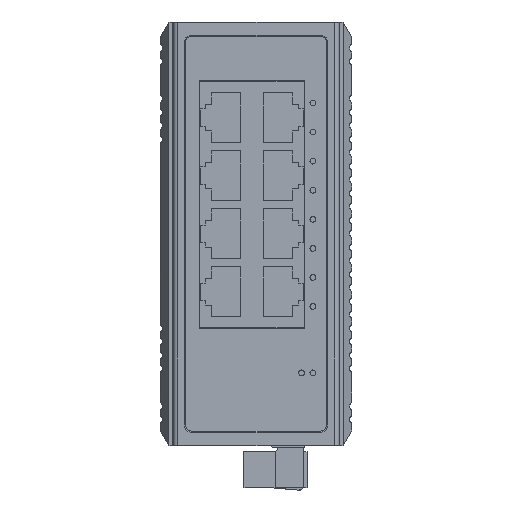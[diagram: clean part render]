
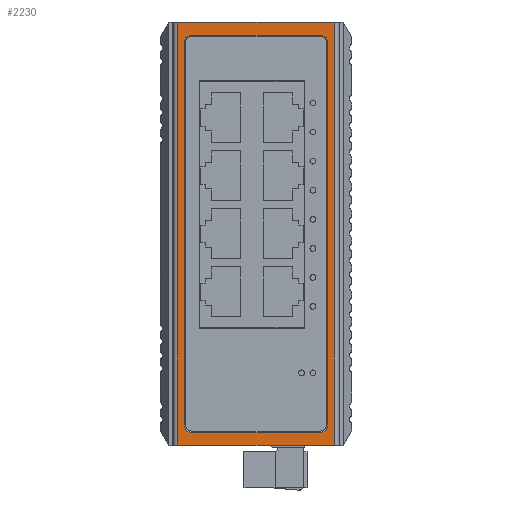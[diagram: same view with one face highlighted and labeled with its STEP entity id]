
A CAD part, left-side view. The second image highlights one B-rep face of the part: STEP entity #2230.
In plain terms, the highlighted planar face has unit normal (-1, 0, 0).
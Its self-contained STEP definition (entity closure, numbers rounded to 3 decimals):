
#66 = AXIS2_PLACEMENT_3D ( 'NONE', #16374, #21116, #7132 ) ;
#258 = LINE ( 'NONE', #8802, #24436 ) ;
#1095 = EDGE_CURVE ( 'NONE', #18463, #17989, #29629, .T. ) ;
#1290 = AXIS2_PLACEMENT_3D ( 'NONE', #1775, #18107, #4144 ) ;
#1568 = LINE ( 'NONE', #17669, #19504 ) ;
#1775 = CARTESIAN_POINT ( 'NONE',  ( -89.68, 1.691, -46. ) ) ;
#1909 = VECTOR ( 'NONE', #28559, 1000. ) ;
#2012 = EDGE_CURVE ( 'NONE', #2653, #18463, #28835, .T. ) ;
#2019 = ORIENTED_EDGE ( 'NONE', *, *, #4218, .T. ) ;
#2230 = ADVANCED_FACE ( 'NONE', ( #22207, #28449 ), #11630, .T. ) ;
#2242 = ORIENTED_EDGE ( 'NONE', *, *, #11444, .T. ) ;
#2653 = VERTEX_POINT ( 'NONE', #8574 ) ;
#2889 = VERTEX_POINT ( 'NONE', #26017 ) ;
#3255 = ORIENTED_EDGE ( 'NONE', *, *, #1095, .T. ) ;
#3341 = EDGE_LOOP ( 'NONE', ( #27638, #5147, #3255, #29417, #19301, #13110, #2242, #22455 ) ) ;
#3921 = CARTESIAN_POINT ( 'NONE',  ( -89.68, 36.091, -50.9 ) ) ;
#3966 = VERTEX_POINT ( 'NONE', #3921 ) ;
#3999 = VECTOR ( 'NONE', #19296, 1000. ) ;
#4127 = ORIENTED_EDGE ( 'NONE', *, *, #17485, .F. ) ;
#4144 = DIRECTION ( 'NONE',  ( 0., -1., 0. ) ) ;
#4218 = EDGE_CURVE ( 'NONE', #28837, #22272, #27945, .T. ) ;
#4567 = EDGE_CURVE ( 'NONE', #17989, #22486, #19105, .T. ) ;
#5137 = CARTESIAN_POINT ( 'NONE',  ( -89.68, 45.938, -50.9 ) ) ;
#5147 = ORIENTED_EDGE ( 'NONE', *, *, #2012, .T. ) ;
#5475 = EDGE_CURVE ( 'NONE', #22486, #21946, #11598, .T. ) ;
#6521 = DIRECTION ( 'NONE',  ( 1., 0., 0. ) ) ;
#6814 = DIRECTION ( 'NONE',  ( 0., 0., -1. ) ) ;
#7132 = DIRECTION ( 'NONE',  ( 0., -1., 0. ) ) ;
#7191 = DIRECTION ( 'NONE',  ( 0., 0., 1. ) ) ;
#7500 = EDGE_CURVE ( 'NONE', #28837, #3966, #8156, .T. ) ;
#7977 = VECTOR ( 'NONE', #8779, 1000. ) ;
#8141 = CARTESIAN_POINT ( 'NONE',  ( -89.68, -0.109, -46. ) ) ;
#8156 = LINE ( 'NONE', #5137, #1909 ) ;
#8184 = VERTEX_POINT ( 'NONE', #11677 ) ;
#8574 = CARTESIAN_POINT ( 'NONE',  ( -89.68, 34.491, 46. ) ) ;
#8649 = CIRCLE ( 'NONE', #9606, 1.8 ) ;
#8779 = DIRECTION ( 'NONE',  ( 0., 1., 0. ) ) ;
#8802 = CARTESIAN_POINT ( 'NONE',  ( -89.68, 36.091, 51. ) ) ;
#9313 = VECTOR ( 'NONE', #7191, 1000. ) ;
#9346 = DIRECTION ( 'NONE',  ( 0., 0., 1. ) ) ;
#9606 = AXIS2_PLACEMENT_3D ( 'NONE', #20520, #6521, #22861 ) ;
#10497 = EDGE_CURVE ( 'NONE', #21946, #15482, #29562, .T. ) ;
#11444 = EDGE_CURVE ( 'NONE', #15482, #2889, #20412, .T. ) ;
#11598 = LINE ( 'NONE', #23150, #24034 ) ;
#11630 = PLANE ( 'NONE',  #66 ) ;
#11677 = CARTESIAN_POINT ( 'NONE',  ( -89.68, 36.091, 50.9 ) ) ;
#11874 = CARTESIAN_POINT ( 'NONE',  ( -89.68, -1.709, -51. ) ) ;
#12038 = VECTOR ( 'NONE', #9346, 1000. ) ;
#12185 = CARTESIAN_POINT ( 'NONE',  ( -89.68, 1.691, 46. ) ) ;
#12781 = CARTESIAN_POINT ( 'NONE',  ( -89.68, 1.691, 47.8 ) ) ;
#13110 = ORIENTED_EDGE ( 'NONE', *, *, #10497, .T. ) ;
#13256 = CARTESIAN_POINT ( 'NONE',  ( -89.68, 32.691, 46. ) ) ;
#13304 = EDGE_CURVE ( 'NONE', #2889, #27135, #8649, .T. ) ;
#13541 = ORIENTED_EDGE ( 'NONE', *, *, #7500, .F. ) ;
#14506 = DIRECTION ( 'NONE',  ( 0., -1., 0. ) ) ;
#14604 = CARTESIAN_POINT ( 'NONE',  ( -89.68, -1.709, 50.9 ) ) ;
#15482 = VERTEX_POINT ( 'NONE', #18994 ) ;
#15564 = DIRECTION ( 'NONE',  ( 0., -1., 0. ) ) ;
#16179 = AXIS2_PLACEMENT_3D ( 'NONE', #12185, #28560, #14506 ) ;
#16374 = CARTESIAN_POINT ( 'NONE',  ( -89.68, 17.191, 0. ) ) ;
#16993 = CARTESIAN_POINT ( 'NONE',  ( -89.68, 32.691, 47.8 ) ) ;
#17485 = EDGE_CURVE ( 'NONE', #8184, #22272, #1568, .T. ) ;
#17669 = CARTESIAN_POINT ( 'NONE',  ( -89.68, 43.548, 50.9 ) ) ;
#17777 = ORIENTED_EDGE ( 'NONE', *, *, #21510, .T. ) ;
#17989 = VERTEX_POINT ( 'NONE', #12781 ) ;
#18107 = DIRECTION ( 'NONE',  ( 1., 0., 0. ) ) ;
#18463 = VERTEX_POINT ( 'NONE', #16993 ) ;
#18994 = CARTESIAN_POINT ( 'NONE',  ( -89.68, 1.691, -47.8 ) ) ;
#19105 = CIRCLE ( 'NONE', #16179, 1.8 ) ;
#19296 = DIRECTION ( 'NONE',  ( 0., -1., 0. ) ) ;
#19301 = ORIENTED_EDGE ( 'NONE', *, *, #5475, .T. ) ;
#19504 = VECTOR ( 'NONE', #27134, 1000. ) ;
#19904 = CARTESIAN_POINT ( 'NONE',  ( -89.68, -1.709, -50.9 ) ) ;
#20412 = LINE ( 'NONE', #20414, #7977 ) ;
#20414 = CARTESIAN_POINT ( 'NONE',  ( -89.68, 32.691, -47.8 ) ) ;
#20520 = CARTESIAN_POINT ( 'NONE',  ( -89.68, 32.691, -46. ) ) ;
#21101 = EDGE_CURVE ( 'NONE', #27135, #2653, #23734, .T. ) ;
#21116 = DIRECTION ( 'NONE',  ( -1., 0., 0. ) ) ;
#21510 = EDGE_CURVE ( 'NONE', #8184, #3966, #258, .T. ) ;
#21946 = VERTEX_POINT ( 'NONE', #8141 ) ;
#22169 = CARTESIAN_POINT ( 'NONE',  ( -89.68, 34.491, -46. ) ) ;
#22207 = FACE_BOUND ( 'NONE', #3341, .T. ) ;
#22272 = VERTEX_POINT ( 'NONE', #14604 ) ;
#22455 = ORIENTED_EDGE ( 'NONE', *, *, #13304, .T. ) ;
#22486 = VERTEX_POINT ( 'NONE', #25273 ) ;
#22861 = DIRECTION ( 'NONE',  ( 0., -1., 0. ) ) ;
#23150 = CARTESIAN_POINT ( 'NONE',  ( -89.68, -0.109, -46. ) ) ;
#23312 = CARTESIAN_POINT ( 'NONE',  ( -89.68, 34.491, 46. ) ) ;
#23734 = LINE ( 'NONE', #23312, #12038 ) ;
#24034 = VECTOR ( 'NONE', #6814, 1000. ) ;
#24436 = VECTOR ( 'NONE', #25135, 1000. ) ;
#25135 = DIRECTION ( 'NONE',  ( 0., 0., -1. ) ) ;
#25273 = CARTESIAN_POINT ( 'NONE',  ( -89.68, -0.109, 46. ) ) ;
#26017 = CARTESIAN_POINT ( 'NONE',  ( -89.68, 32.691, -47.8 ) ) ;
#26283 = CARTESIAN_POINT ( 'NONE',  ( -89.68, 1.691, 47.8 ) ) ;
#26549 = EDGE_LOOP ( 'NONE', ( #4127, #17777, #13541, #2019 ) ) ;
#27134 = DIRECTION ( 'NONE',  ( 0., -1., 0. ) ) ;
#27135 = VERTEX_POINT ( 'NONE', #22169 ) ;
#27638 = ORIENTED_EDGE ( 'NONE', *, *, #21101, .T. ) ;
#27920 = AXIS2_PLACEMENT_3D ( 'NONE', #13256, #29637, #15564 ) ;
#27945 = LINE ( 'NONE', #11874, #9313 ) ;
#28449 = FACE_OUTER_BOUND ( 'NONE', #26549, .T. ) ;
#28559 = DIRECTION ( 'NONE',  ( 0., 1., 0. ) ) ;
#28560 = DIRECTION ( 'NONE',  ( 1., 0., 0. ) ) ;
#28835 = CIRCLE ( 'NONE', #27920, 1.8 ) ;
#28837 = VERTEX_POINT ( 'NONE', #19904 ) ;
#29417 = ORIENTED_EDGE ( 'NONE', *, *, #4567, .T. ) ;
#29562 = CIRCLE ( 'NONE', #1290, 1.8 ) ;
#29629 = LINE ( 'NONE', #26283, #3999 ) ;
#29637 = DIRECTION ( 'NONE',  ( 1., 0., 0. ) ) ;
